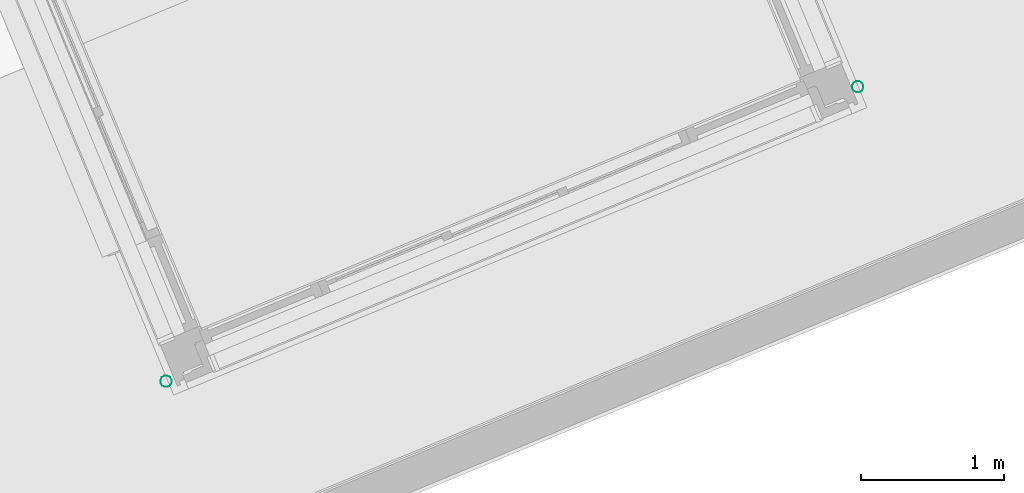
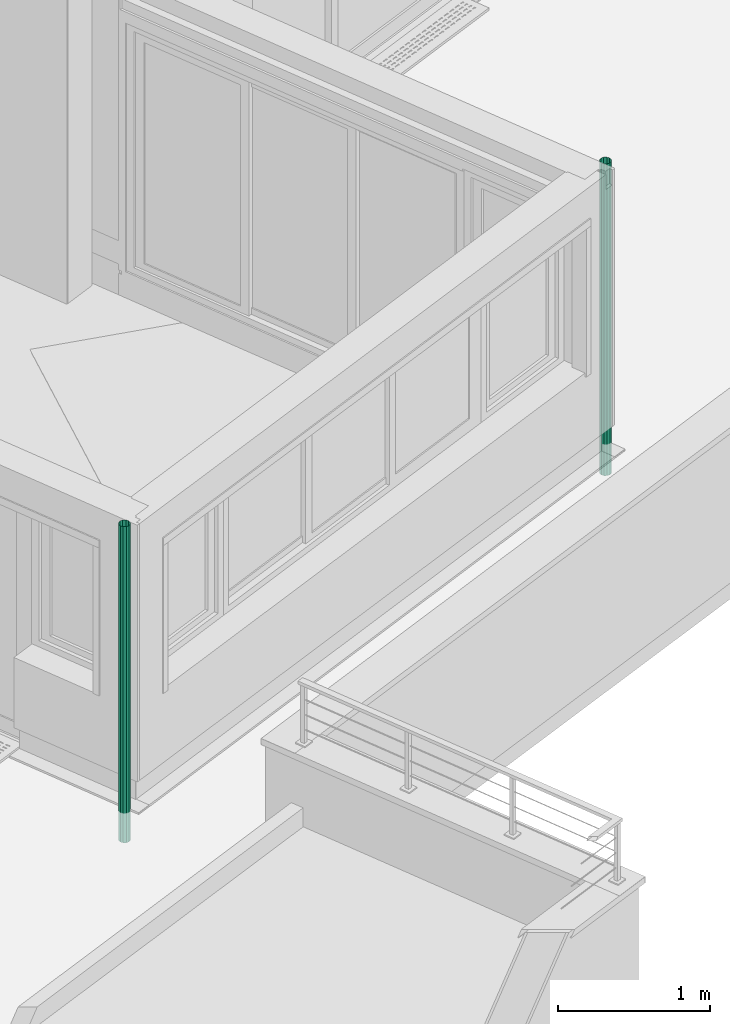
# One storey, part 53 of 62: 2 flow terminals.
"""IFC2X3 building model written with IfcOpenShell, lengths in metres."""

from ifc_helpers import new_model, entity, si_unit, converted_unit, derived_unit, money_unit, direction, frame, origin_with_axes, place, context, subcontext, project, spatial, open_shell, surface_model, type_object, element, save


model = new_model("IFC2X3")

# Units and contexts
model_context = context("Model", 3, precision=1e-05, world=origin_with_axes(), true_north=direction((0.0, 1.0)))
body_context = subcontext(model_context, "Body", "Model", "MODEL_VIEW")
ifc_project = project(units=[si_unit("LENGTHUNIT", "METRE"), si_unit("AREAUNIT", "SQUARE_METRE"), si_unit("VOLUMEUNIT", "CUBIC_METRE"), converted_unit("PLANEANGLEUNIT", "DEGREE", entity("IfcPlaneAngleMeasure", 0.0174532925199), si_unit("PLANEANGLEUNIT", "RADIAN"), dimensions=[0, 0, 0, 0, 0, 0, 0]), si_unit("SOLIDANGLEUNIT", "STERADIAN"), money_unit("EUR"), converted_unit("TIMEUNIT", "Year", entity("IfcTimeMeasure", 31556926.0), si_unit("TIMEUNIT", "SECOND"), dimensions=[0, 0, 1, 0, 0, 0, 0]), si_unit("MASSUNIT", "GRAM", prefix="KILO"), si_unit("THERMODYNAMICTEMPERATUREUNIT", "DEGREE_CELSIUS"), si_unit("LUMINOUSINTENSITYUNIT", "LUMEN"), si_unit("ENERGYUNIT", "JOULE", prefix="MEGA"), derived_unit("THERMALCONDUCTANCEUNIT", [(si_unit("POWERUNIT", "WATT"), 1), (si_unit("LENGTHUNIT", "METRE"), -1), (si_unit("THERMODYNAMICTEMPERATUREUNIT", "KELVIN"), -1)]), derived_unit("SPECIFICHEATCAPACITYUNIT", [(si_unit("ENERGYUNIT", "JOULE"), 1), (si_unit("MASSUNIT", "GRAM", prefix="KILO"), -1), (si_unit("THERMODYNAMICTEMPERATUREUNIT", "KELVIN"), -1)]), derived_unit("MASSDENSITYUNIT", [(si_unit("MASSUNIT", "GRAM", prefix="KILO"), 1), (si_unit("VOLUMEUNIT", "CUBIC_METRE"), -1)])], contexts=[model_context])

# Site, building, storey
site_placement = place(None, origin_with_axes())
site = spatial("IfcSite", under=ifc_project, at=site_placement, Name="Site", CompositionType="ELEMENT")
building_placement = place(site_placement, origin_with_axes())
building = spatial("IfcBuilding", under=site, at=building_placement, Name="Bâtiment", CompositionType="ELEMENT")
storey_placement = place(building_placement, frame((0.0, 0.0, 8.16), z_axis=(0.0, 0.0, 1.0), x_axis=(1.0, 0.0, 0.0)))
storey = spatial("IfcBuildingStorey", under=building, at=storey_placement, Name="R+3", CompositionType="ELEMENT", Elevation=8.16)

# Flow terminals
waste_terminal_type = type_object("IfcWasteTerminalType", Name="Tuyau descente 23", PredefinedType="GULLYTRAP")
flow_terminal_1_placement = place(storey_placement, frame((-10.5625310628, -19.7816665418, 0.0), z_axis=(0.0, 0.0, 1.0), x_axis=(0.224876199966, 0.974387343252, 0.0)))
element("IfcFlowTerminal", 1, at=flow_terminal_1_placement, inside=storey, type_object=waste_terminal_type, Name="MOB-006", context=body_context, shape_type="SurfaceModel", body=[
    surface_model("IfcShellBasedSurfaceModel", [(0.04, -0.0225, 2.50872208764), (0.0346410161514, -0.0425, 2.50872208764), (0.0346410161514, -0.0425, 0.0), (0.04, -0.0225, 0.0), (0.02, -0.0571410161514, 2.50872208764), (0.02, -0.0571410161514, 0.0), (0.0346410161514, -0.0025, 2.50872208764), (0.0346410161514, -0.0025, 0.0), (0.0, -0.0625, 2.50872208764), (0.0, -0.0625, 0.0), (0.02, 0.0121410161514, 2.50872208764), (0.02, 0.0121410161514, 0.0), (-0.02, -0.0571410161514, 2.50872208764), (-0.02, -0.0571410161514, 0.0), (0.0, 0.0175, 2.50872208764), (0.0, 0.0175, 0.0), (-0.0346410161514, -0.0425, 2.50872208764), (-0.0346410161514, -0.0425, 0.0), (-0.02, 0.0121410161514, 2.50872208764), (-0.02, 0.0121410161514, 0.0), (-0.04, -0.0225, 2.50872208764), (-0.04, -0.0225, 0.0), (-0.0346410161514, -0.0025, 2.50872208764), (-0.0346410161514, -0.0025, 0.0)], [open_shell([[[0, 1, 2, 3]], [[1, 4, 5, 2]], [[6, 0, 3, 7]], [[4, 8, 9, 5]], [[10, 6, 7, 11]], [[8, 12, 13, 9]], [[14, 10, 11, 15]], [[12, 16, 17, 13]], [[18, 14, 15, 19]], [[16, 20, 21, 17]], [[22, 18, 19, 23]], [[20, 22, 23, 21]]])]),
])
flow_terminal_2_placement = place(storey_placement, frame((-15.4157932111, -21.8490320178, 0.0), z_axis=(0.0, 0.0, 1.0), x_axis=(0.224876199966, 0.974387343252, 0.0)))
element("IfcFlowTerminal", 2, at=flow_terminal_2_placement, inside=storey, type_object=waste_terminal_type, Name="MOB-006", context=body_context, shape_type="SurfaceModel", body=[
    surface_model("IfcShellBasedSurfaceModel", [(0.04, -0.0225, 2.54334296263), (0.0346410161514, -0.0425, 2.54334296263), (0.0346410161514, -0.0425, 0.0), (0.04, -0.0225, 0.0), (0.02, -0.0571410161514, 2.54334296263), (0.02, -0.0571410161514, 0.0), (0.0346410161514, -0.0025, 2.54334296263), (0.0346410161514, -0.0025, 0.0), (0.0, -0.0625, 2.54334296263), (0.0, -0.0625, 0.0), (0.02, 0.0121410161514, 2.54334296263), (0.02, 0.0121410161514, 0.0), (-0.02, -0.0571410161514, 2.54334296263), (-0.02, -0.0571410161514, 0.0), (0.0, 0.0175, 2.54334296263), (0.0, 0.0175, 0.0), (-0.0346410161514, -0.0425, 2.54334296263), (-0.0346410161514, -0.0425, 0.0), (-0.02, 0.0121410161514, 2.54334296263), (-0.02, 0.0121410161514, 0.0), (-0.04, -0.0225, 2.54334296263), (-0.04, -0.0225, 0.0), (-0.0346410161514, -0.0025, 2.54334296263), (-0.0346410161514, -0.0025, 0.0)], [open_shell([[[0, 1, 2, 3]], [[1, 4, 5, 2]], [[6, 0, 3, 7]], [[4, 8, 9, 5]], [[10, 6, 7, 11]], [[8, 12, 13, 9]], [[14, 10, 11, 15]], [[12, 16, 17, 13]], [[18, 14, 15, 19]], [[16, 20, 21, 17]], [[22, 18, 19, 23]], [[20, 22, 23, 21]]])]),
])

save(model, "model.ifc")
